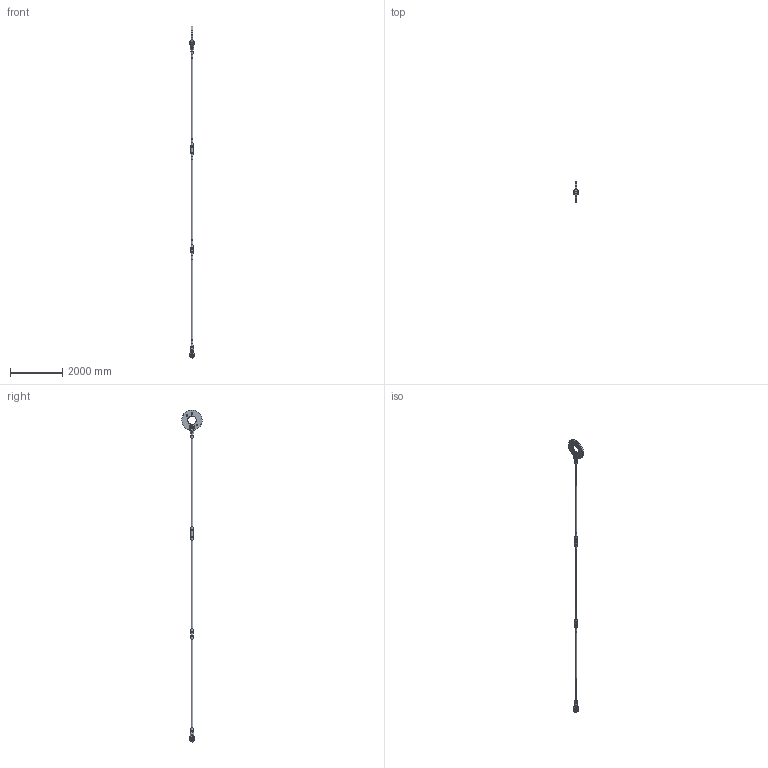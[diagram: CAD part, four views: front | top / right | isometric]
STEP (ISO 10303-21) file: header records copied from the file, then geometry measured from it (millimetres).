
FILE_DESCRIPTION(/* description */ (''),/* implementation_level */ '2;1');
FILE_NAME(/* name */ 'C:\Vault-WS\Anker\Werksnorm\Hochbau\ASDO-System\ASDO-S\für Kunden\M 064.stp',/* time_stamp */ '2014-05-21T10:41:58+02:00',/* author */ ('ritgen'),/* organization */ (''),/* preprocessor_version */ 'ST-DEVELOPER v15.2',/* originating_system */ 'Autodesk Inventor 2014',/* authorisation */ '');
FILE_SCHEMA (('AUTOMOTIVE_DESIGN { 1 0 10303 214 3 1 1 }'));
Length unit declared in the file: millimetre
Products named in the file (11): ASDO-005764; ASDO-014269; ASDO-014324; DIN 7991 - M10x25 - 8.8; ASDO-013938; ASDO-001697; ASDO-001331; ASDO-001457; ASDO-006328; ASDO-014026; ASDO-006327
Bounding box: 165 x 784.25 x 12746.76 mm (x, y, z)
Volume: 70228326.5 mm3; surface area: 4710615.2 mm2
Topology: 24 solids, 24 shells, 497 faces, 1054 edges, 642 vertices
Faces by surface type: plane 168, bspline 144, cylinder 85, cone 54, torus 46
Full cylindrical faces by diameter (mm): 7 x18, 8.376 x4, 10 x4, 12 x4, 20 x4, 57.505 x11, 64 x5, 66 x10, 67 x1, 68 x6, 91.5 x6, 92 x4, 100 x1, 101.6 x1, 320 x1, 785 x1
Entity records: 13709 total; most frequent: CARTESIAN_POINT 9445, DIRECTION 770, ORIENTED_EDGE 760, EDGE_CURVE 380, AXIS2_PLACEMENT_3D 353, EDGE_LOOP 320, VERTEX_POINT 266, ADVANCED_FACE 214
